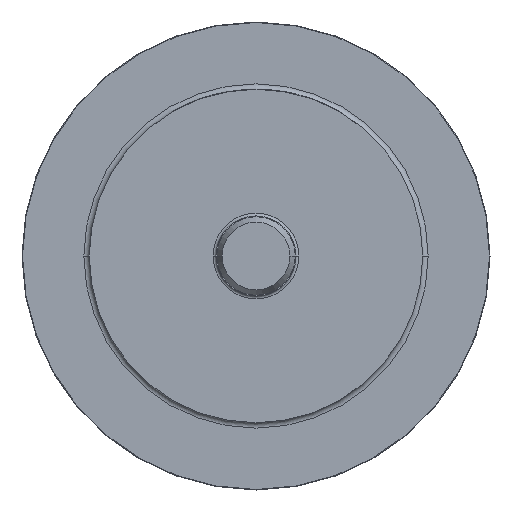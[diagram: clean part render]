
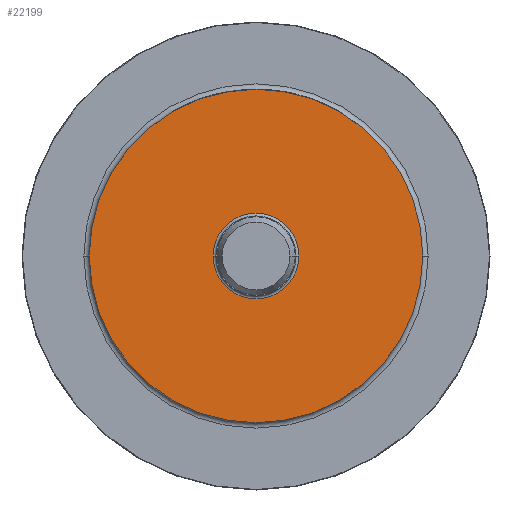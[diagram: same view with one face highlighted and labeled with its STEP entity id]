
A CAD part, left-side view. The second image highlights one B-rep face of the part: STEP entity #22199.
In plain terms, the highlighted planar face has unit normal (-1, 0, 0).
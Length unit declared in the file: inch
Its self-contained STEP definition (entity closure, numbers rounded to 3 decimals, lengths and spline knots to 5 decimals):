
#6836=CARTESIAN_POINT('',(-0.31,0.,0.));
#6837=DIRECTION('',(1.,0.,0.));
#6838=DIRECTION('',(0.,-1.,0.));
#6839=AXIS2_PLACEMENT_3D('',#6836,#6837,#6838);
#6841=CARTESIAN_POINT('',(-0.31,0.,0.));
#6842=DIRECTION('',(1.,0.,0.));
#6843=DIRECTION('',(0.,1.,0.));
#6844=AXIS2_PLACEMENT_3D('',#6841,#6842,#6843);
#6846=CARTESIAN_POINT('',(-0.31,0.,0.));
#6847=DIRECTION('',(-1.,0.,0.));
#6848=DIRECTION('',(0.,1.,0.));
#6849=AXIS2_PLACEMENT_3D('',#6846,#6847,#6848);
#6851=CARTESIAN_POINT('',(-0.31,0.,0.));
#6852=DIRECTION('',(-1.,0.,0.));
#6853=DIRECTION('',(0.,-1.,0.));
#6854=AXIS2_PLACEMENT_3D('',#6851,#6852,#6853);
#10484=CARTESIAN_POINT('',(-0.31,0.31,0.));
#10485=VERTEX_POINT('',#10484);
#10486=CARTESIAN_POINT('',(-0.31,-0.31,0.));
#10487=VERTEX_POINT('',#10486);
#11495=CARTESIAN_POINT('',(-0.31,0.0795,0.));
#11496=CARTESIAN_POINT('',(-0.31,-0.0795,0.));
#11497=VERTEX_POINT('',#11495);
#11498=VERTEX_POINT('',#11496);
#22184=CARTESIAN_POINT('',(-0.31,0.,0.));
#22185=DIRECTION('',(1.,0.,0.));
#22186=DIRECTION('',(0.,-1.,0.));
#22187=AXIS2_PLACEMENT_3D('',#22184,#22185,#22186);
#22188=PLANE('',#22187);
#22189=ORIENTED_EDGE('',*,*,#12192,.T.);
#22190=ORIENTED_EDGE('',*,*,#12217,.T.);
#22191=EDGE_LOOP('',(#22189,#22190));
#22192=FACE_OUTER_BOUND('',#22191,.F.);
#22194=ORIENTED_EDGE('',*,*,#22193,.T.);
#22196=ORIENTED_EDGE('',*,*,#22195,.T.);
#22197=EDGE_LOOP('',(#22194,#22196));
#22198=FACE_BOUND('',#22197,.F.);
#6840=CIRCLE('',#6839,0.31);
#6845=CIRCLE('',#6844,0.31);
#6850=CIRCLE('',#6849,0.0795);
#6855=CIRCLE('',#6854,0.0795);
#12192=EDGE_CURVE('',#10487,#10485,#6840,.T.);
#12217=EDGE_CURVE('',#10485,#10487,#6845,.T.);
#22193=EDGE_CURVE('',#11497,#11498,#6850,.T.);
#22195=EDGE_CURVE('',#11498,#11497,#6855,.T.);
#22199=ADVANCED_FACE('',(#22192,#22198),#22188,.F.);
